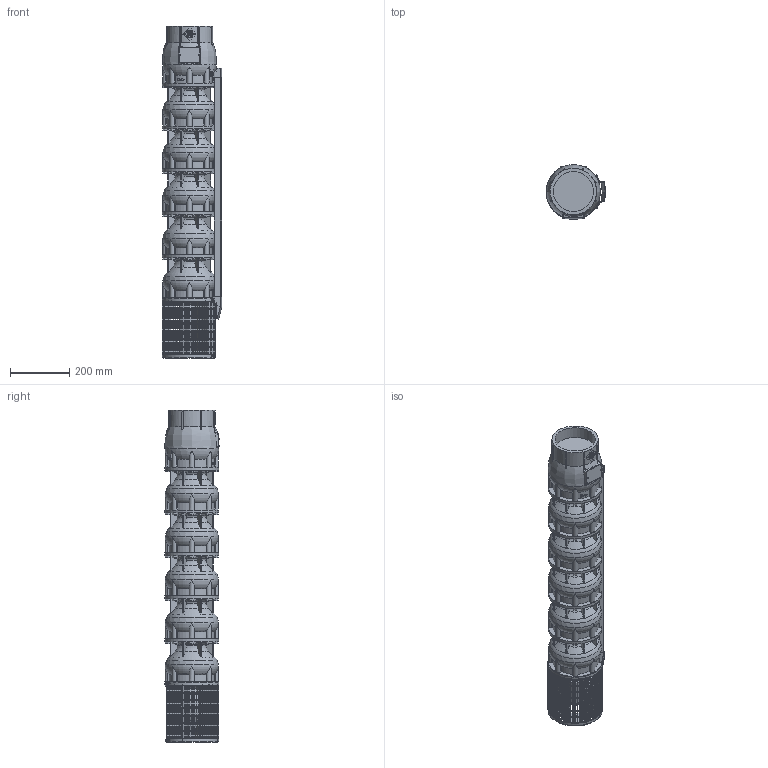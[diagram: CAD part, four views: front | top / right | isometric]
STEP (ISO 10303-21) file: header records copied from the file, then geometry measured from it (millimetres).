
FILE_DESCRIPTION(/* description */ ('Unknown'),/* implementation_level */ '2;1');
FILE_NAME(/* name */ 'VSI134-5_WR_M6-50_DLE',/* time_stamp */ '2023-09-14T13:17:02+02:00',/* author */ ('Unknown'),/* organization */ ('Unknown'),/* preprocessor_version */ 'ST-DEVELOPER v18.102',/* originating_system */ 'Solid Edge',/* authorisation */ 'Unknown');
FILE_SCHEMA (('AUTOMOTIVE_DESIGN {1 0 10303 214 3 1 1}'));
Products named in the file (11): VSI134-5_WR_M6-50_DLE; VSI134_testata; VSI134_diffusore; VSI134_supporto_8×6; VSI134_filtro_A; VSI134_filtro_B; VSI134_terminale_top_copricavo_basso; VSI134_terminale_bottom_copricavo_basso; LOW 134-5; M5X8_UNI7687; VSI134_giunto_8×6
Assembly tree (23 placements, depth 2):
  VSI134-5_WR_M6-50_DLE
    VSI134_testata
    VSI134_diffusore  x5
    VSI134_supporto_8×6
    VSI134_filtro_A
    VSI134_filtro_B
    VSI134_terminale_top_copricavo_basso
    VSI134_terminale_bottom_copricavo_basso
    LOW 134-5
    M5X8_UNI7687  x10
    VSI134_giunto_8×6
Bounding box: 201.57 x 183.52 x 1122 mm (x, y, z)
Volume: 19119408.1 mm3; surface area: 1560289.5 mm2
Topology: 62 solids, 64 shells, 3314 faces, 9356 edges, 6238 vertices
Faces by surface type: plane 2508, cylinder 439, torus 269, cone 55, bspline 31, sphere 12
Full cylindrical faces by diameter (mm): 2.4 x2, 3 x2, 4.2 x16, 5 x10, 5.5 x8, 15 x4, 26 x1, 44 x1, 59 x1, 74 x1, 76.2 x1, 98 x1, 135.472 x1, 157 x1, 182 x6
Entity records: 83733 total; most frequent: CARTESIAN_POINT 18043, ORIENTED_EDGE 13738, DIRECTION 13168, EDGE_CURVE 6869, VERTEX_POINT 4627, AXIS2_PLACEMENT_3D 4491, LINE 4186, VECTOR 4186
